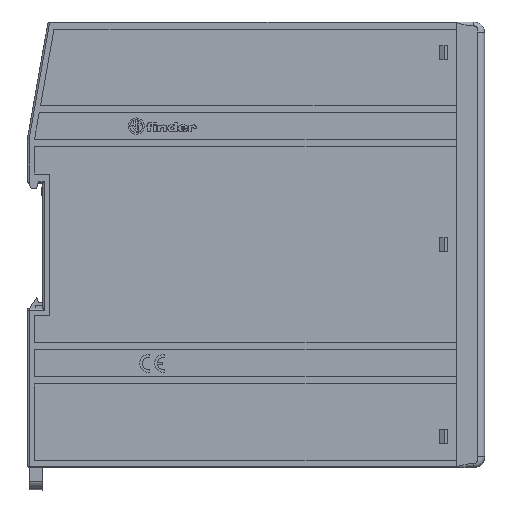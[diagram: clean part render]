
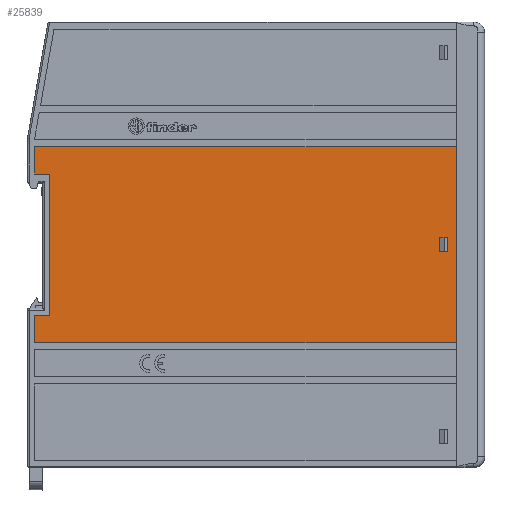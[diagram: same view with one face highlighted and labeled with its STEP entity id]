
A CAD part, top view. The second image highlights one B-rep face of the part: STEP entity #25839.
In plain terms, the highlighted planar face has unit normal (0, 0, 1).
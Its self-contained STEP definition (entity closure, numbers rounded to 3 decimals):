
#2150=LINE('',#43570,#5239);
#2154=LINE('',#43578,#5243);
#2318=LINE('',#44141,#5407);
#2319=LINE('',#44144,#5408);
#2320=LINE('',#44146,#5409);
#2321=LINE('',#44148,#5410);
#2322=LINE('',#44149,#5411);
#2323=LINE('',#44150,#5412);
#2324=LINE('',#44152,#5413);
#2325=LINE('',#44154,#5414);
#2326=LINE('',#44156,#5415);
#2327=LINE('',#44158,#5416);
#5239=VECTOR('',#33989,1000.);
#5243=VECTOR('',#33995,1000.);
#5407=VECTOR('',#34409,1000.);
#5408=VECTOR('',#34410,1000.);
#5409=VECTOR('',#34411,1000.);
#5410=VECTOR('',#34412,1000.);
#5411=VECTOR('',#34413,1000.);
#5412=VECTOR('',#34414,1000.);
#5413=VECTOR('',#34415,1000.);
#5414=VECTOR('',#34416,1000.);
#5415=VECTOR('',#34417,1000.);
#5416=VECTOR('',#34418,1000.);
#8030=PLANE('',#28479);
#12867=ORIENTED_EDGE('',*,*,#18188,.T.);
#12868=ORIENTED_EDGE('',*,*,#18189,.T.);
#12869=ORIENTED_EDGE('',*,*,#18190,.T.);
#12870=ORIENTED_EDGE('',*,*,#18191,.T.);
#12871=ORIENTED_EDGE('',*,*,#18192,.F.);
#12872=ORIENTED_EDGE('',*,*,#17987,.T.);
#12873=ORIENTED_EDGE('',*,*,#18193,.F.);
#12874=ORIENTED_EDGE('',*,*,#18194,.T.);
#12875=ORIENTED_EDGE('',*,*,#18195,.F.);
#12876=ORIENTED_EDGE('',*,*,#18196,.T.);
#12877=ORIENTED_EDGE('',*,*,#18197,.F.);
#12878=ORIENTED_EDGE('',*,*,#17991,.T.);
#17987=EDGE_CURVE('',#22100,#22101,#2150,.T.);
#17991=EDGE_CURVE('',#22103,#22102,#2154,.T.);
#18188=EDGE_CURVE('',#22209,#22210,#2318,.T.);
#18189=EDGE_CURVE('',#22210,#22211,#2319,.T.);
#18190=EDGE_CURVE('',#22211,#22212,#2320,.T.);
#18191=EDGE_CURVE('',#22212,#22209,#2321,.T.);
#18192=EDGE_CURVE('',#22100,#22102,#2322,.T.);
#18193=EDGE_CURVE('',#22213,#22101,#2323,.T.);
#18194=EDGE_CURVE('',#22213,#22214,#2324,.T.);
#18195=EDGE_CURVE('',#22215,#22214,#2325,.T.);
#18196=EDGE_CURVE('',#22215,#22216,#2326,.T.);
#18197=EDGE_CURVE('',#22103,#22216,#2327,.T.);
#22100=VERTEX_POINT('',#43571);
#22101=VERTEX_POINT('',#43572);
#22102=VERTEX_POINT('',#43577);
#22103=VERTEX_POINT('',#43579);
#22209=VERTEX_POINT('',#44142);
#22210=VERTEX_POINT('',#44143);
#22211=VERTEX_POINT('',#44145);
#22212=VERTEX_POINT('',#44147);
#22213=VERTEX_POINT('',#44151);
#22214=VERTEX_POINT('',#44153);
#22215=VERTEX_POINT('',#44155);
#22216=VERTEX_POINT('',#44157);
#23777=EDGE_LOOP('',(#12867,#12868,#12869,#12870));
#23778=EDGE_LOOP('',(#12871,#12872,#12873,#12874,#12875,#12876,#12877,#12878));
#24911=FACE_BOUND('',#23777,.T.);
#24912=FACE_BOUND('',#23778,.T.);
#25839=ADVANCED_FACE('',(#24911,#24912),#8030,.T.);
#28479=AXIS2_PLACEMENT_3D('',#44140,#34407,#34408);
#33989=DIRECTION('',(-1.,0.,0.));
#33995=DIRECTION('',(1.,0.,0.));
#34407=DIRECTION('',(0.,0.,1.));
#34408=DIRECTION('',(1.,0.,0.));
#34409=DIRECTION('',(0.,-1.,0.));
#34410=DIRECTION('',(-1.,0.,0.));
#34411=DIRECTION('',(0.,1.,0.));
#34412=DIRECTION('',(1.,0.,0.));
#34413=DIRECTION('',(0.,-1.,0.));
#34414=DIRECTION('',(0.,1.,0.));
#34415=DIRECTION('',(1.,0.,0.));
#34416=DIRECTION('',(0.,1.,0.));
#34417=DIRECTION('',(-1.,0.,0.));
#34418=DIRECTION('',(0.,1.,0.));
#43570=CARTESIAN_POINT('',(48.,27.75,-67.5));
#43571=CARTESIAN_POINT('',(71.,27.75,-67.5));
#43572=CARTESIAN_POINT('',(-48.3,27.75,-67.5));
#43577=CARTESIAN_POINT('',(71.,-27.75,-67.5));
#43578=CARTESIAN_POINT('',(-41.5,-27.75,-67.5));
#43579=CARTESIAN_POINT('',(-48.3,-27.75,-67.5));
#44140=CARTESIAN_POINT('',(-50.188,28.787,-67.5));
#44141=CARTESIAN_POINT('',(68.5,28.787,-67.5));
#44142=CARTESIAN_POINT('',(68.5,2.,-67.5));
#44143=CARTESIAN_POINT('',(68.5,-2.,-67.5));
#44144=CARTESIAN_POINT('',(-50.188,-2.,-67.5));
#44145=CARTESIAN_POINT('',(66.3,-2.,-67.5));
#44146=CARTESIAN_POINT('',(66.3,28.787,-67.5));
#44147=CARTESIAN_POINT('',(66.3,2.,-67.5));
#44148=CARTESIAN_POINT('',(-50.188,2.,-67.5));
#44149=CARTESIAN_POINT('',(71.,28.787,-67.5));
#44150=CARTESIAN_POINT('',(-48.3,20.,-67.5));
#44151=CARTESIAN_POINT('',(-48.3,20.,-67.5));
#44152=CARTESIAN_POINT('',(-48.3,20.,-67.5));
#44153=CARTESIAN_POINT('',(-44.,20.,-67.5));
#44154=CARTESIAN_POINT('',(-44.,-20.,-67.5));
#44155=CARTESIAN_POINT('',(-44.,-20.,-67.5));
#44156=CARTESIAN_POINT('',(-44.,-20.,-67.5));
#44157=CARTESIAN_POINT('',(-48.3,-20.,-67.5));
#44158=CARTESIAN_POINT('',(-48.3,-27.75,-67.5));
